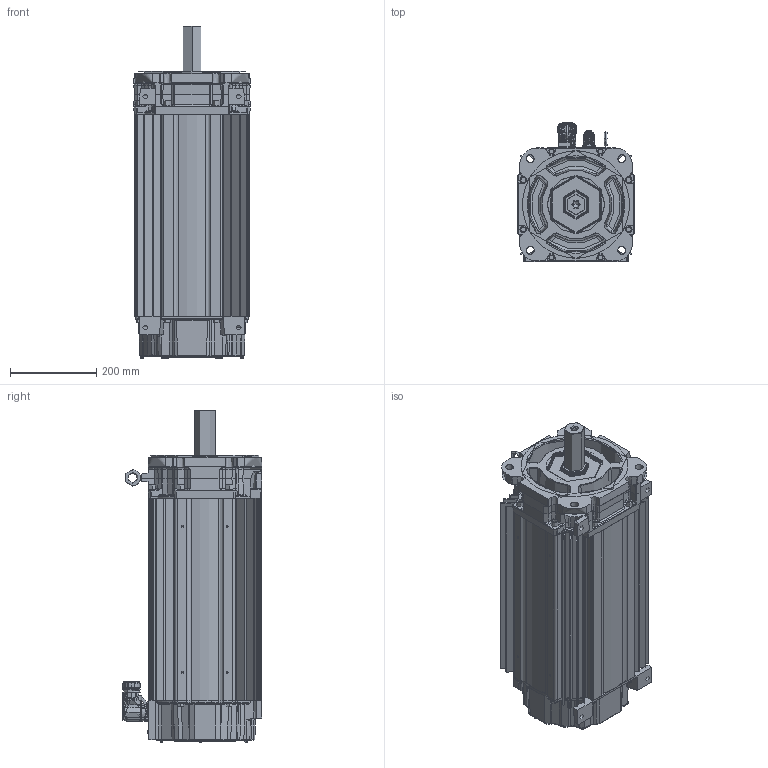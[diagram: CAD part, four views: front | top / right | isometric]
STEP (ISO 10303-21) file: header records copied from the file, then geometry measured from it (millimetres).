
FILE_DESCRIPTION((''),'2;1');
FILE_NAME('10001442216_ASM','2020-01-16T12:11:37',('VThimma'),('Rockwell Automation'),'CREO PARAMETRIC BY PTC INC, 2017380','CREO PARAMETRIC BY PTC INC, 2017380','');
FILE_SCHEMA(('CONFIG_CONTROL_DESIGN','SHAPE_APPEARANCE_LAYERS_GROUPS'));
Products named in the file (25): 10001441960; 10001404634_AF0; 10001404629_AF6; 10001404635_ASM; 10001585735; 10001442014_ASM; 10001439812_KEYLESS; 10001440033_ASM; 10001405269_AF0; 10001405367_ASM; 10001586887; 0002-5004; 10001609981; 10001737030; 10000014325-2; 10000014331; 10000014332-460; 10000014330-460_ASM; 10000172464; PWR40CONN-BRK; PWR40BASE; 10000806125_ASM; 221404-Q12; 10001408124; 10001442216_ASM
Assembly tree (50 placements, depth 4):
  10001442216_ASM
    10001442014_ASM
      10001441960
      10001404635_ASM
        10001404634_AF0
        10001404629_AF6
      10001585735  x8
    10001440033_ASM
      10001439812_KEYLESS
    10001405367_ASM
      10001405269_AF0
    10001586887  x7
    0002-5004  x2
    10001609981
    10001737030
    10000014330-460_ASM
      10000014325-2
      10000014331
      10000014332-460
    10000172464  x4
    10000806125_ASM
      PWR40CONN-BRK
      PWR40BASE
    221404-Q12  x10
    10001408124
Bounding box: 269.49 x 324.05 x 768.83 mm (x, y, z)
Topology: 0 solids, 61 shells, 7054 faces, 18340 edges, 11403 vertices
Faces by surface type: cylinder 2233, plane 1653, bspline 1505, torus 877, cone 580, sphere 163, extrusion 42, revolution 1
Entity records: 357327 total; most frequent: CARTESIAN_POINT 136589, ORIENTED_EDGE 30193, DIRECTION 25530, PRESENTATION_STYLE_ASSIGNMENT 20965, STYLED_ITEM 20965, CURVE_STYLE 15206, EDGE_CURVE 15164, AXIS2_PLACEMENT_3D 10361
